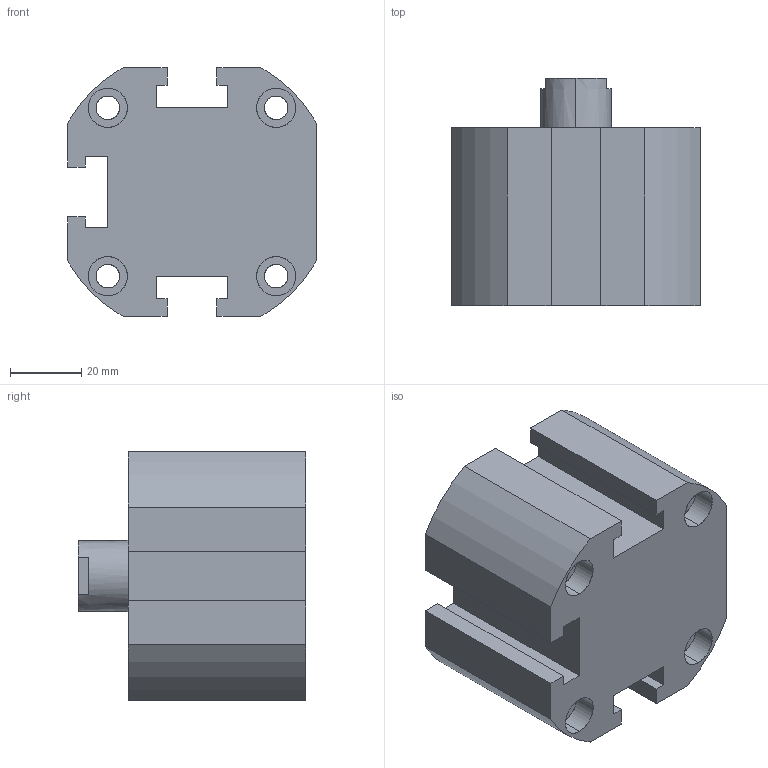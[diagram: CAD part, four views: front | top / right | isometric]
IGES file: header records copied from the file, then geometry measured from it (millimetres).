
Start section: SolidWorks IGES file using analytic representation for surfaces
Global section: file name: C:\Users\Toshiba\Desktop\XG#0-50D-10.IGS; native system: SolidWorks 2014; preprocessor: SolidWorks 2014; author: Toshiba; date: 160524.093819; units: millimetre
Bounding box: 70 x 64 x 70 mm (x, y, z)
Surface area: 31920.9 mm2 (no closed solid volume)
Topology: 0 solids, 0 shells, 107 faces, 1922 edges, 1918 vertices
Faces by surface type: revolution 58, bspline 49
